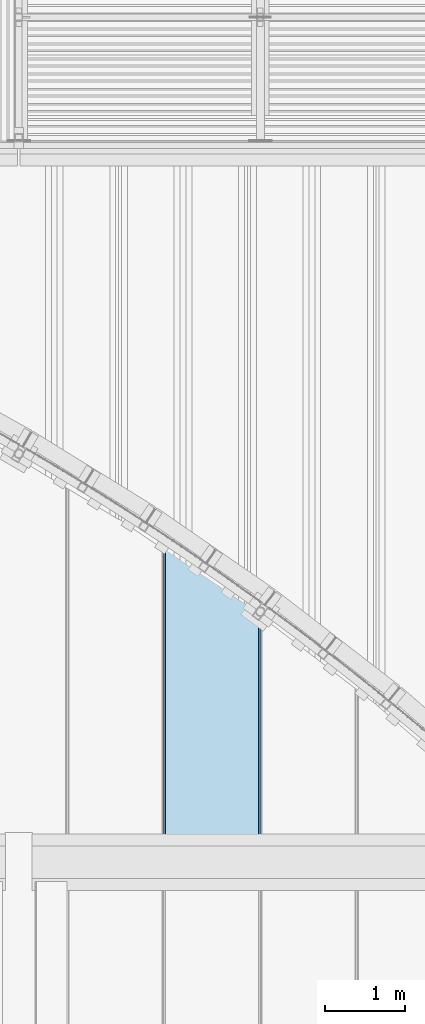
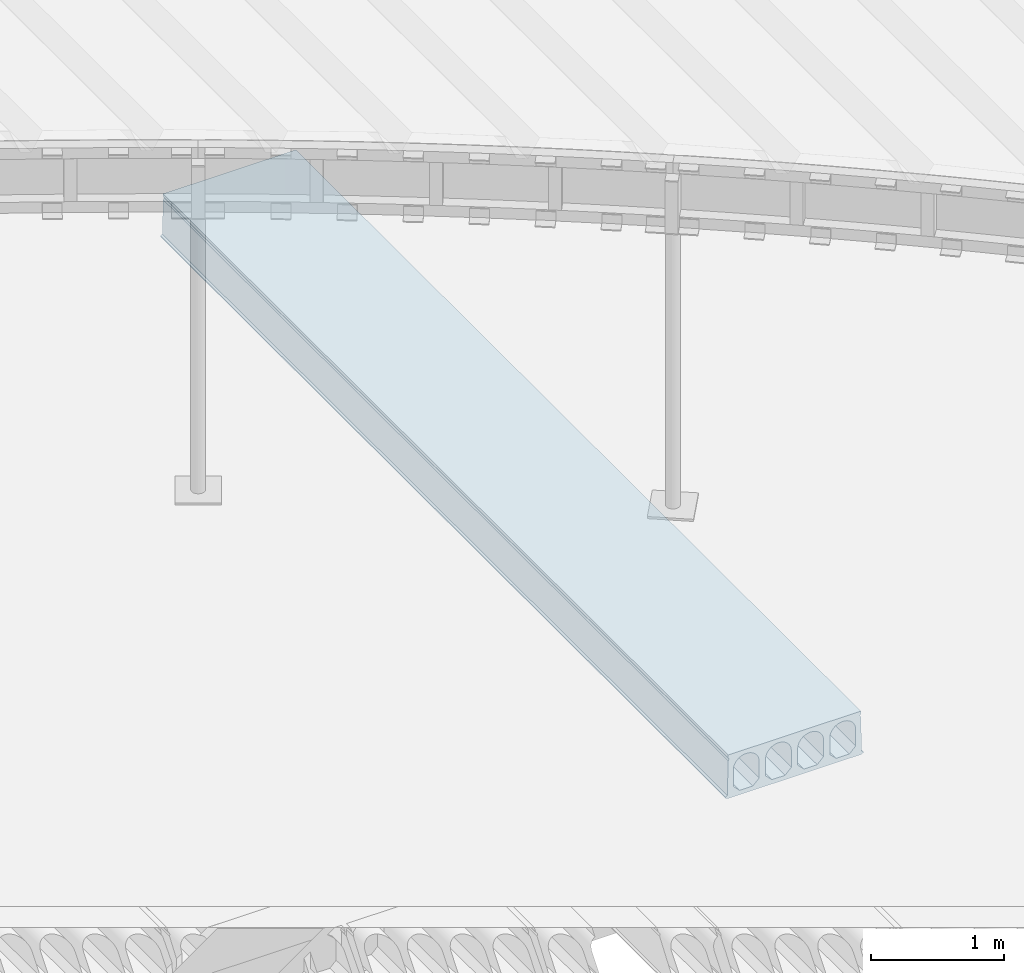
# One storey, part 62 of 98: 1 slab.
"""IFC2X3 building model written with IfcOpenShell, lengths in millimetres."""

from ifc_helpers import new_model, entity, si_unit, converted_unit, derived_unit, direction, frame, origin_with_axes, place, context, subcontext, project, spatial, faceted_brep, material, type_object, element, save


model = new_model("IFC2X3")

# Units and contexts
model_context = context("Model", 3, precision=0.01, world=frame((0.0, 4.29681676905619e-09, 0.0)), true_north=direction((4.01073788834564e-13, 1.0)))
plan_context = context("Plan", 3, precision=0.01, world=frame((0.0, 4.29681676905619e-09, 0.0)), true_north=direction((4.01073788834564e-13, 1.0)))
body_context = subcontext(model_context, "Body", "Model", "MODEL_VIEW")
ifc_project = project(units=[converted_unit("PLANEANGLEUNIT", "DEGREE", entity("IfcPositiveLengthMeasure", 0.0174532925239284), si_unit("PLANEANGLEUNIT", "RADIAN"), dimensions=[0, 0, 0, 0, 0, 0, 0]), si_unit("AREAUNIT", "SQUARE_METRE"), si_unit("LENGTHUNIT", "METRE", prefix="MILLI"), si_unit("MASSUNIT", "GRAM", prefix="KILO"), si_unit("POWERUNIT", "WATT"), si_unit("PRESSUREUNIT", "PASCAL"), si_unit("FORCEUNIT", "NEWTON", prefix="KILO"), si_unit("ELECTRICCURRENTUNIT", "AMPERE"), si_unit("THERMODYNAMICTEMPERATUREUNIT", "DEGREE_CELSIUS"), si_unit("TIMEUNIT", "SECOND"), si_unit("VOLUMEUNIT", "CUBIC_METRE"), derived_unit("LINEARVELOCITYUNIT", [(si_unit("LENGTHUNIT", "METRE"), 1), (si_unit("TIMEUNIT", "SECOND"), -1)]), derived_unit("VOLUMETRICFLOWRATEUNIT", [(si_unit("VOLUMEUNIT", "CUBIC_METRE"), 1), (si_unit("TIMEUNIT", "SECOND"), -1)]), derived_unit("THERMALTRANSMITTANCEUNIT", [(si_unit("POWERUNIT", "WATT"), 1), (si_unit("THERMODYNAMICTEMPERATUREUNIT", "KELVIN"), -1), (si_unit("AREAUNIT", "SQUARE_METRE"), -1)])], contexts=[model_context, plan_context])

# Site, building, storey
site_placement = place(None, frame((0.0, -4.29681676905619e-09, 0.0), z_axis=(0.0, 0.0, 1.0), x_axis=(1.0, 0.0, 0.0)))
site = spatial("IfcSite", under=ifc_project, at=site_placement, Name="Gardermoen", CompositionType="ELEMENT")
building_placement = place(site_placement, frame((0.0, 4.29681676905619e-09, 0.0), z_axis=(0.0, 0.0, 1.0), x_axis=(1.0, 0.0, 0.0)))
building = spatial("IfcBuilding", under=site, at=building_placement, Name="TS", CompositionType="ELEMENT")
storey_placement = place(building_placement, origin_with_axes())
storey = spatial("IfcBuildingStorey", under=building, at=storey_placement, Name="D", CompositionType="ELEMENT", Elevation=0.0)

# Slab
ifc_material = material(Name="CONCRETE/C45/55")
slab_type = type_object("IfcSlabType", Name="HD400", PredefinedType="NOTDEFINED")
slab_placement = place(storey_placement, frame((522399.999766, 405739.995625, 203600.0), z_axis=(0.0, 0.0, 1.0), x_axis=(0.0, 1.0, 0.0)))
element("IfcSlab", 1, at=slab_placement, inside=storey, type_object=slab_type, material=ifc_material, Name="HULLDEKKE", ObjectType="HD400", PredefinedType="FLOOR", context=body_context, shape_type="Brep", body=[
    faceted_brep([(0.0, 600.0, -190.0), (0.0, 600.0, -180.0), (8520.00875000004, 600.0, -180.0), (8520.00875000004, 600.0, -190.0), (0.0, 585.0, -170.0), (8520.00875000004, 585.0, -170.0), (0.0, 577.5, 145.0), (8520.00875000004, 577.5, 145.0), (0.0, 570.0, 160.0), (8520.00875000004, 570.0, 160.0), (0.0, 577.5, 175.0), (8520.00875000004, 577.5, 175.0), (0.0, 577.5, 200.0), (8520.00875000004, 577.5, 200.0), (0.0, -577.5, 200.0), (8520.00875000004, -577.5, 200.0), (0.0, -577.5, 175.0), (8520.00875000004, -577.5, 175.0), (0.0, -570.0, 160.0), (8520.00875000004, -570.0, 160.0), (0.0, -577.5, 145.0), (8520.00875000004, -577.5, 145.0), (0.0, -585.0, -170.0), (8520.00875000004, -585.0, -170.0), (0.0, -600.0, -180.0), (8520.00875000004, -600.0, -180.0), (0.0, -600.0, -190.0), (8520.00875000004, -600.0, -190.0), (0.0, -583.380004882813, -200.0), (8520.00875000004, -583.380004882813, -200.0), (0.0, 583.380004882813, -200.0), (8520.00875000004, 583.380004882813, -200.0), (0.0, -362.5, -160.0), (0.0, -477.5, -160.0), (8520.00875000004, -477.5, -160.0), (8520.00875000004, -362.5, -160.0), (0.0, -532.5, -105.0), (8520.00875000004, -532.5, -105.0), (0.0, -532.5, 47.5), (8520.00875000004, -532.5, 47.5), (0.0, -532.115755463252, 56.7901763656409), (8520.00875000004, -532.115755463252, 56.7901763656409), (0.0, -530.965646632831, 66.0168914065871), (8520.00875000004, -530.965646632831, 66.0168914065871), (0.0, -529.057529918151, 75.1171173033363), (8520.00875000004, -529.057529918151, 75.1171173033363), (0.0, -526.404439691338, 84.028690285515), (8520.00875000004, -526.404439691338, 84.028690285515), (0.0, -523.024499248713, 92.6907352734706), (8520.00875000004, -523.024499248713, 92.6907352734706), (0.0, -518.940797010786, 101.044081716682), (8520.00875000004, -518.940797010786, 101.044081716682), (0.0, -514.181228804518, 109.031667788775), (8520.00875000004, -514.181228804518, 109.031667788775), (0.0, -508.778307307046, 116.598930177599), (8520.00875000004, -508.778307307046, 116.598930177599), (0.0, -502.768939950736, 123.694176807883), (8520.00875000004, -502.768939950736, 123.694176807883), (0.0, -496.194176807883, 130.268939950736), (8520.00875000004, -496.194176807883, 130.268939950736), (0.0, -489.098930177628, 136.278307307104), (8520.00875000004, -489.098930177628, 136.278307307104), (0.0, -481.531667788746, 141.681228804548), (8520.00875000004, -481.531667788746, 141.681228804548), (0.0, -473.544081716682, 146.440797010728), (8520.00875000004, -473.544081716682, 146.440797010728), (0.0, -465.190735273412, 150.524499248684), (8520.00875000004, -465.190735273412, 150.524499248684), (0.0, -456.528690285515, 153.904439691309), (8520.00875000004, -456.528690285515, 153.904439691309), (0.0, -447.617117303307, 156.55752991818), (8520.00875000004, -447.617117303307, 156.55752991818), (0.0, -438.516891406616, 158.465646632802), (8520.00875000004, -438.516891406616, 158.465646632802), (0.0, -429.290176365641, 159.615755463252), (8520.00875000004, -429.290176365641, 159.615755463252), (0.0, -420.0, 160.0), (8520.00875000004, -420.0, 160.0), (0.0, -410.709823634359, 159.615755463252), (8520.00875000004, -410.709823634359, 159.615755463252), (0.0, -401.483108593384, 158.465646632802), (8520.00875000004, -401.483108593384, 158.465646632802), (0.0, -392.382882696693, 156.55752991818), (8520.00875000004, -392.382882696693, 156.55752991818), (0.0, -383.471309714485, 153.904439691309), (8520.00875000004, -383.471309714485, 153.904439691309), (0.0, -374.809264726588, 150.524499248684), (8520.00875000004, -374.809264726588, 150.524499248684), (0.0, -366.455918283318, 146.440797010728), (8520.00875000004, -366.455918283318, 146.440797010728), (0.0, -358.468332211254, 141.681228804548), (8520.00875000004, -358.468332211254, 141.681228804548), (0.0, -350.901069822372, 136.278307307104), (8520.00875000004, -350.901069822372, 136.278307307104), (0.0, -343.805823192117, 130.268939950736), (8520.00875000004, -343.805823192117, 130.268939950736), (0.0, -337.231060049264, 123.694176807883), (8520.00875000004, -337.231060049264, 123.694176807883), (0.0, -331.221692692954, 116.598930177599), (8520.00875000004, -331.221692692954, 116.598930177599), (0.0, -325.818771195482, 109.031667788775), (8520.00875000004, -325.818771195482, 109.031667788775), (0.0, -321.059202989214, 101.044081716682), (8520.00875000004, -321.059202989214, 101.044081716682), (0.0, -316.975500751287, 92.6907352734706), (8520.00875000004, -316.975500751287, 92.6907352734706), (0.0, -313.595560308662, 84.028690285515), (8520.00875000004, -313.595560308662, 84.028690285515), (0.0, -310.942470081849, 75.1171173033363), (8520.00875000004, -310.942470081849, 75.1171173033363), (0.0, -309.034353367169, 66.0168914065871), (8520.00875000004, -309.034353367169, 66.0168914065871), (0.0, -307.884244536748, 56.7901763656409), (8520.00875000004, -307.884244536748, 56.7901763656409), (0.0, -307.5, 47.5), (8520.00875000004, -307.5, 47.5), (0.0, -307.5, -105.0), (8520.00875000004, -307.5, -105.0), (0.0, -82.5, -160.0), (0.0, -197.5, -160.0), (8520.00875000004, -197.5, -160.0), (8520.00875000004, -82.5, -160.0), (0.0, -252.5, -105.0), (8520.00875000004, -252.5, -105.0), (0.0, -252.5, 47.5), (8520.00875000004, -252.5, 47.5), (0.0, -252.115755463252, 56.7901763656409), (8520.00875000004, -252.115755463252, 56.7901763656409), (0.0, -250.965646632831, 66.0168914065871), (8520.00875000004, -250.965646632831, 66.0168914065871), (0.0, -249.057529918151, 75.1171173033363), (8520.00875000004, -249.057529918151, 75.1171173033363), (0.0, -246.404439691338, 84.028690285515), (8520.00875000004, -246.404439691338, 84.028690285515), (0.0, -243.024499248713, 92.6907352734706), (8520.00875000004, -243.024499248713, 92.6907352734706), (0.0, -238.940797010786, 101.044081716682), (8520.00875000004, -238.940797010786, 101.044081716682), (0.0, -234.181228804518, 109.031667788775), (8520.00875000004, -234.181228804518, 109.031667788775), (0.0, -228.778307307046, 116.598930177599), (8520.00875000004, -228.778307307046, 116.598930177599), (0.0, -222.768939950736, 123.694176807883), (8520.00875000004, -222.768939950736, 123.694176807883), (0.0, -216.194176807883, 130.268939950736), (8520.00875000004, -216.194176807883, 130.268939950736), (0.0, -209.098930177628, 136.278307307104), (8520.00875000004, -209.098930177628, 136.278307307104), (0.0, -201.531667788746, 141.681228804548), (8520.00875000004, -201.531667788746, 141.681228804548), (0.0, -193.544081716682, 146.440797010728), (8520.00875000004, -193.544081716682, 146.440797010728), (0.0, -185.190735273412, 150.524499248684), (8520.00875000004, -185.190735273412, 150.524499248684), (0.0, -176.528690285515, 153.904439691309), (8520.00875000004, -176.528690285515, 153.904439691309), (0.0, -167.617117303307, 156.55752991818), (8520.00875000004, -167.617117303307, 156.55752991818), (0.0, -158.516891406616, 158.465646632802), (8520.00875000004, -158.516891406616, 158.465646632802), (0.0, -149.290176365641, 159.615755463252), (8520.00875000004, -149.290176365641, 159.615755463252), (0.0, -140.0, 160.0), (8520.00875000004, -140.0, 160.0), (0.0, -130.709823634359, 159.615755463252), (8520.00875000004, -130.709823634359, 159.615755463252), (0.0, -121.483108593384, 158.465646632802), (8520.00875000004, -121.483108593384, 158.465646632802), (0.0, -112.382882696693, 156.55752991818), (8520.00875000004, -112.382882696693, 156.55752991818), (0.0, -103.471309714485, 153.904439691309), (8520.00875000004, -103.471309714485, 153.904439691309), (0.0, -94.8092647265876, 150.524499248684), (8520.00875000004, -94.8092647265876, 150.524499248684), (0.0, -86.4559182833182, 146.440797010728), (8520.00875000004, -86.4559182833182, 146.440797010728), (0.0, -78.4683322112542, 141.681228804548), (8520.00875000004, -78.4683322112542, 141.681228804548), (0.0, -70.9010698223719, 136.278307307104), (8520.00875000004, -70.9010698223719, 136.278307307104), (0.0, -63.8058231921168, 130.268939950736), (8520.00875000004, -63.8058231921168, 130.268939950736), (0.0, -57.2310600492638, 123.694176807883), (8520.00875000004, -57.2310600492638, 123.694176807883), (0.0, -51.2216926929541, 116.598930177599), (8520.00875000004, -51.2216926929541, 116.598930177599), (0.0, -45.8187711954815, 109.031667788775), (8520.00875000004, -45.8187711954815, 109.031667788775), (0.0, -41.0592029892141, 101.044081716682), (8520.00875000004, -41.0592029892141, 101.044081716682), (0.0, -36.9755007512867, 92.6907352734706), (8520.00875000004, -36.9755007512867, 92.6907352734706), (0.0, -33.5955603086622, 84.028690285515), (8520.00875000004, -33.5955603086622, 84.028690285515), (0.0, -30.942470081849, 75.1171173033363), (8520.00875000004, -30.942470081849, 75.1171173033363), (0.0, -29.0343533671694, 66.0168914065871), (8520.00875000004, -29.0343533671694, 66.0168914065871), (0.0, -27.8842445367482, 56.7901763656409), (8520.00875000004, -27.8842445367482, 56.7901763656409), (0.0, -27.5, 47.5), (8520.00875000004, -27.5, 47.5), (0.0, -27.5, -105.0), (8520.00875000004, -27.5, -105.0), (0.0, 197.5, -160.0), (0.0, 82.5, -160.0), (8520.00875000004, 82.5, -160.0), (8520.00875000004, 197.5, -160.0), (0.0, 27.5, -105.0), (8520.00875000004, 27.5, -105.0), (0.0, 27.5, 47.5), (8520.00875000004, 27.5, 47.5), (0.0, 27.8842445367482, 56.7901763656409), (8520.00875000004, 27.8842445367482, 56.7901763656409), (0.0, 29.0343533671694, 66.0168914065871), (8520.00875000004, 29.0343533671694, 66.0168914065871), (0.0, 30.942470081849, 75.1171173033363), (8520.00875000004, 30.942470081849, 75.1171173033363), (0.0, 33.5955603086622, 84.028690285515), (8520.00875000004, 33.5955603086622, 84.028690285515), (0.0, 36.9755007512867, 92.6907352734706), (8520.00875000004, 36.9755007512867, 92.6907352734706), (0.0, 41.0592029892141, 101.044081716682), (8520.00875000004, 41.0592029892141, 101.044081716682), (0.0, 45.8187711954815, 109.031667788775), (8520.00875000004, 45.8187711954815, 109.031667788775), (0.0, 51.2216926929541, 116.598930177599), (8520.00875000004, 51.2216926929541, 116.598930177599), (0.0, 57.2310600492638, 123.694176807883), (8520.00875000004, 57.2310600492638, 123.694176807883), (0.0, 63.8058231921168, 130.268939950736), (8520.00875000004, 63.8058231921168, 130.268939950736), (0.0, 70.9010698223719, 136.278307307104), (8520.00875000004, 70.9010698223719, 136.278307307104), (0.0, 78.4683322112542, 141.681228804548), (8520.00875000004, 78.4683322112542, 141.681228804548), (0.0, 86.4559182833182, 146.440797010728), (8520.00875000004, 86.4559182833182, 146.440797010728), (0.0, 94.8092647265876, 150.524499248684), (8520.00875000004, 94.8092647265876, 150.524499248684), (0.0, 103.471309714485, 153.904439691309), (8520.00875000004, 103.471309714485, 153.904439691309), (0.0, 112.382882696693, 156.55752991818), (8520.00875000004, 112.382882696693, 156.55752991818), (0.0, 121.483108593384, 158.465646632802), (8520.00875000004, 121.483108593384, 158.465646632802), (0.0, 130.709823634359, 159.615755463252), (8520.00875000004, 130.709823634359, 159.615755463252), (0.0, 140.0, 160.0), (8520.00875000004, 140.0, 160.0), (0.0, 149.290176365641, 159.615755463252), (8520.00875000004, 149.290176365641, 159.615755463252), (0.0, 158.516891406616, 158.465646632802), (8520.00875000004, 158.516891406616, 158.465646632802), (0.0, 167.617117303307, 156.55752991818), (8520.00875000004, 167.617117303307, 156.55752991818), (0.0, 176.528690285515, 153.904439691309), (8520.00875000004, 176.528690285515, 153.904439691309), (0.0, 185.190735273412, 150.524499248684), (8520.00875000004, 185.190735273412, 150.524499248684), (0.0, 193.544081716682, 146.440797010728), (8520.00875000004, 193.544081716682, 146.440797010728), (0.0, 201.531667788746, 141.681228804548), (8520.00875000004, 201.531667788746, 141.681228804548), (0.0, 209.098930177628, 136.278307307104), (8520.00875000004, 209.098930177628, 136.278307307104), (0.0, 216.194176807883, 130.268939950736), (8520.00875000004, 216.194176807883, 130.268939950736), (0.0, 222.768939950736, 123.694176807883), (8520.00875000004, 222.768939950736, 123.694176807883), (0.0, 228.778307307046, 116.598930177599), (8520.00875000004, 228.778307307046, 116.598930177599), (0.0, 234.181228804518, 109.031667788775), (8520.00875000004, 234.181228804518, 109.031667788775), (0.0, 238.940797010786, 101.044081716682), (8520.00875000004, 238.940797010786, 101.044081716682), (0.0, 243.024499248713, 92.6907352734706), (8520.00875000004, 243.024499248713, 92.6907352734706), (0.0, 246.404439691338, 84.028690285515), (8520.00875000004, 246.404439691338, 84.028690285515), (0.0, 249.057529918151, 75.1171173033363), (8520.00875000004, 249.057529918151, 75.1171173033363), (0.0, 250.965646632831, 66.0168914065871), (8520.00875000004, 250.965646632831, 66.0168914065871), (0.0, 252.115755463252, 56.7901763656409), (8520.00875000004, 252.115755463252, 56.7901763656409), (0.0, 252.5, 47.5), (8520.00875000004, 252.5, 47.5), (0.0, 252.5, -105.0), (8520.00875000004, 252.5, -105.0), (0.0, 477.5, -160.0), (0.0, 362.5, -160.0), (8520.00875000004, 362.5, -160.0), (8520.00875000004, 477.5, -160.0), (0.0, 307.5, -105.0), (8520.00875000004, 307.5, -105.0), (0.0, 307.5, 47.5), (8520.00875000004, 307.5, 47.5), (0.0, 307.884244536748, 56.7901763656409), (8520.00875000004, 307.884244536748, 56.7901763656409), (0.0, 309.034353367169, 66.0168914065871), (8520.00875000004, 309.034353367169, 66.0168914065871), (0.0, 310.942470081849, 75.1171173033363), (8520.00875000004, 310.942470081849, 75.1171173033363), (0.0, 313.595560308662, 84.028690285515), (8520.00875000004, 313.595560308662, 84.028690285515), (0.0, 316.975500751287, 92.6907352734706), (8520.00875000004, 316.975500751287, 92.6907352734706), (0.0, 321.059202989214, 101.044081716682), (8520.00875000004, 321.059202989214, 101.044081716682), (0.0, 325.818771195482, 109.031667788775), (8520.00875000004, 325.818771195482, 109.031667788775), (0.0, 331.221692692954, 116.598930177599), (8520.00875000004, 331.221692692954, 116.598930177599), (0.0, 337.231060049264, 123.694176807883), (8520.00875000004, 337.231060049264, 123.694176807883), (0.0, 343.805823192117, 130.268939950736), (8520.00875000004, 343.805823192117, 130.268939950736), (0.0, 350.901069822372, 136.278307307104), (8520.00875000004, 350.901069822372, 136.278307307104), (0.0, 358.468332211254, 141.681228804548), (8520.00875000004, 358.468332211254, 141.681228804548), (0.0, 366.455918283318, 146.440797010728), (8520.00875000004, 366.455918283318, 146.440797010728), (0.0, 374.809264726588, 150.524499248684), (8520.00875000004, 374.809264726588, 150.524499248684), (0.0, 383.471309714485, 153.904439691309), (8520.00875000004, 383.471309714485, 153.904439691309), (0.0, 392.382882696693, 156.55752991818), (8520.00875000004, 392.382882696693, 156.55752991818), (0.0, 401.483108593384, 158.465646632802), (8520.00875000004, 401.483108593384, 158.465646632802), (0.0, 410.709823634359, 159.615755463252), (8520.00875000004, 410.709823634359, 159.615755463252), (0.0, 420.0, 160.0), (8520.00875000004, 420.0, 160.0), (0.0, 429.290176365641, 159.615755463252), (8520.00875000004, 429.290176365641, 159.615755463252), (0.0, 438.516891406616, 158.465646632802), (8520.00875000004, 438.516891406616, 158.465646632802), (0.0, 447.617117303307, 156.55752991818), (8520.00875000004, 447.617117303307, 156.55752991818), (0.0, 456.528690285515, 153.904439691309), (8520.00875000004, 456.528690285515, 153.904439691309), (0.0, 465.190735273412, 150.524499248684), (8520.00875000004, 465.190735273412, 150.524499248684), (0.0, 473.544081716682, 146.440797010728), (8520.00875000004, 473.544081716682, 146.440797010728), (0.0, 481.531667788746, 141.681228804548), (8520.00875000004, 481.531667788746, 141.681228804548), (0.0, 489.098930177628, 136.278307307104), (8520.00875000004, 489.098930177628, 136.278307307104), (0.0, 496.194176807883, 130.268939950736), (8520.00875000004, 496.194176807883, 130.268939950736), (0.0, 502.768939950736, 123.694176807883), (8520.00875000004, 502.768939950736, 123.694176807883), (0.0, 508.778307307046, 116.598930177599), (8520.00875000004, 508.778307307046, 116.598930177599), (0.0, 514.181228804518, 109.031667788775), (8520.00875000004, 514.181228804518, 109.031667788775), (0.0, 518.940797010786, 101.044081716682), (8520.00875000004, 518.940797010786, 101.044081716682), (0.0, 523.024499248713, 92.6907352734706), (8520.00875000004, 523.024499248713, 92.6907352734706), (0.0, 526.404439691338, 84.028690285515), (8520.00875000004, 526.404439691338, 84.028690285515), (0.0, 529.057529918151, 75.1171173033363), (8520.00875000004, 529.057529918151, 75.1171173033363), (0.0, 530.965646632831, 66.0168914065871), (8520.00875000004, 530.965646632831, 66.0168914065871), (0.0, 532.115755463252, 56.7901763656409), (8520.00875000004, 532.115755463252, 56.7901763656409), (0.0, 532.5, 47.5), (8520.00875000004, 532.5, 47.5), (0.0, 532.5, -105.0), (8520.00875000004, 532.5, -105.0)], [[[0, 1, 2, 3]], [[1, 4, 5, 2]], [[4, 6, 7, 5]], [[6, 8, 9, 7]], [[8, 10, 11, 9]], [[10, 12, 13, 11]], [[12, 14, 15, 13]], [[14, 16, 17, 15]], [[16, 18, 19, 17]], [[18, 20, 21, 19]], [[20, 22, 23, 21]], [[22, 24, 25, 23]], [[24, 26, 27, 25]], [[26, 28, 29, 27]], [[28, 30, 31, 29]], [[30, 0, 3, 31]], [[32, 33, 34, 35]], [[33, 36, 37, 34]], [[36, 38, 39, 37]], [[38, 40, 41, 39]], [[40, 42, 43, 41]], [[42, 44, 45, 43]], [[44, 46, 47, 45]], [[46, 48, 49, 47]], [[48, 50, 51, 49]], [[50, 52, 53, 51]], [[52, 54, 55, 53]], [[54, 56, 57, 55]], [[56, 58, 59, 57]], [[58, 60, 61, 59]], [[60, 62, 63, 61]], [[62, 64, 65, 63]], [[64, 66, 67, 65]], [[66, 68, 69, 67]], [[68, 70, 71, 69]], [[70, 72, 73, 71]], [[72, 74, 75, 73]], [[74, 76, 77, 75]], [[76, 78, 79, 77]], [[78, 80, 81, 79]], [[80, 82, 83, 81]], [[82, 84, 85, 83]], [[84, 86, 87, 85]], [[86, 88, 89, 87]], [[88, 90, 91, 89]], [[90, 92, 93, 91]], [[92, 94, 95, 93]], [[94, 96, 97, 95]], [[96, 98, 99, 97]], [[98, 100, 101, 99]], [[100, 102, 103, 101]], [[102, 104, 105, 103]], [[104, 106, 107, 105]], [[106, 108, 109, 107]], [[108, 110, 111, 109]], [[110, 112, 113, 111]], [[112, 114, 115, 113]], [[114, 116, 117, 115]], [[116, 32, 35, 117]], [[118, 119, 120, 121]], [[119, 122, 123, 120]], [[122, 124, 125, 123]], [[124, 126, 127, 125]], [[126, 128, 129, 127]], [[128, 130, 131, 129]], [[130, 132, 133, 131]], [[132, 134, 135, 133]], [[134, 136, 137, 135]], [[136, 138, 139, 137]], [[138, 140, 141, 139]], [[140, 142, 143, 141]], [[142, 144, 145, 143]], [[144, 146, 147, 145]], [[146, 148, 149, 147]], [[148, 150, 151, 149]], [[150, 152, 153, 151]], [[152, 154, 155, 153]], [[154, 156, 157, 155]], [[156, 158, 159, 157]], [[158, 160, 161, 159]], [[160, 162, 163, 161]], [[162, 164, 165, 163]], [[164, 166, 167, 165]], [[166, 168, 169, 167]], [[168, 170, 171, 169]], [[170, 172, 173, 171]], [[172, 174, 175, 173]], [[174, 176, 177, 175]], [[176, 178, 179, 177]], [[178, 180, 181, 179]], [[180, 182, 183, 181]], [[182, 184, 185, 183]], [[184, 186, 187, 185]], [[186, 188, 189, 187]], [[188, 190, 191, 189]], [[190, 192, 193, 191]], [[192, 194, 195, 193]], [[194, 196, 197, 195]], [[196, 198, 199, 197]], [[198, 200, 201, 199]], [[200, 202, 203, 201]], [[202, 118, 121, 203]], [[204, 205, 206, 207]], [[205, 208, 209, 206]], [[208, 210, 211, 209]], [[210, 212, 213, 211]], [[212, 214, 215, 213]], [[214, 216, 217, 215]], [[216, 218, 219, 217]], [[218, 220, 221, 219]], [[220, 222, 223, 221]], [[222, 224, 225, 223]], [[224, 226, 227, 225]], [[226, 228, 229, 227]], [[228, 230, 231, 229]], [[230, 232, 233, 231]], [[232, 234, 235, 233]], [[234, 236, 237, 235]], [[236, 238, 239, 237]], [[238, 240, 241, 239]], [[240, 242, 243, 241]], [[242, 244, 245, 243]], [[244, 246, 247, 245]], [[246, 248, 249, 247]], [[248, 250, 251, 249]], [[250, 252, 253, 251]], [[252, 254, 255, 253]], [[254, 256, 257, 255]], [[256, 258, 259, 257]], [[258, 260, 261, 259]], [[260, 262, 263, 261]], [[262, 264, 265, 263]], [[264, 266, 267, 265]], [[266, 268, 269, 267]], [[268, 270, 271, 269]], [[270, 272, 273, 271]], [[272, 274, 275, 273]], [[274, 276, 277, 275]], [[276, 278, 279, 277]], [[278, 280, 281, 279]], [[280, 282, 283, 281]], [[282, 284, 285, 283]], [[284, 286, 287, 285]], [[286, 288, 289, 287]], [[288, 204, 207, 289]], [[290, 291, 292, 293]], [[291, 294, 295, 292]], [[294, 296, 297, 295]], [[296, 298, 299, 297]], [[298, 300, 301, 299]], [[300, 302, 303, 301]], [[302, 304, 305, 303]], [[304, 306, 307, 305]], [[306, 308, 309, 307]], [[308, 310, 311, 309]], [[310, 312, 313, 311]], [[312, 314, 315, 313]], [[314, 316, 317, 315]], [[316, 318, 319, 317]], [[318, 320, 321, 319]], [[320, 322, 323, 321]], [[322, 324, 325, 323]], [[324, 326, 327, 325]], [[326, 328, 329, 327]], [[328, 330, 331, 329]], [[330, 332, 333, 331]], [[332, 334, 335, 333]], [[334, 336, 337, 335]], [[336, 338, 339, 337]], [[338, 340, 341, 339]], [[340, 342, 343, 341]], [[342, 344, 345, 343]], [[344, 346, 347, 345]], [[346, 348, 349, 347]], [[348, 350, 351, 349]], [[350, 352, 353, 351]], [[352, 354, 355, 353]], [[354, 356, 357, 355]], [[356, 358, 359, 357]], [[358, 360, 361, 359]], [[360, 362, 363, 361]], [[362, 364, 365, 363]], [[364, 366, 367, 365]], [[366, 368, 369, 367]], [[368, 370, 371, 369]], [[370, 372, 373, 371]], [[372, 374, 375, 373]], [[374, 290, 293, 375]], [[5, 7, 9, 11, 13, 15, 17, 19, 21, 23, 25, 27, 29, 31, 3, 2], [295, 297, 299, 301, 303, 305, 307, 309, 311, 313, 315, 317, 319, 321, 323, 325, 327, 329, 331, 333, 335, 337, 339, 341, 343, 345, 347, 349, 351, 353, 355, 357, 359, 361, 363, 365, 367, 369, 371, 373, 375, 293, 292], [209, 211, 213, 215, 217, 219, 221, 223, 225, 227, 229, 231, 233, 235, 237, 239, 241, 243, 245, 247, 249, 251, 253, 255, 257, 259, 261, 263, 265, 267, 269, 271, 273, 275, 277, 279, 281, 283, 285, 287, 289, 207, 206], [123, 125, 127, 129, 131, 133, 135, 137, 139, 141, 143, 145, 147, 149, 151, 153, 155, 157, 159, 161, 163, 165, 167, 169, 171, 173, 175, 177, 179, 181, 183, 185, 187, 189, 191, 193, 195, 197, 199, 201, 203, 121, 120], [37, 39, 41, 43, 45, 47, 49, 51, 53, 55, 57, 59, 61, 63, 65, 67, 69, 71, 73, 75, 77, 79, 81, 83, 85, 87, 89, 91, 93, 95, 97, 99, 101, 103, 105, 107, 109, 111, 113, 115, 117, 35, 34]], [[30, 28, 26, 24, 22, 20, 18, 16, 14, 12, 10, 8, 6, 4, 1, 0], [374, 372, 370, 368, 366, 364, 362, 360, 358, 356, 354, 352, 350, 348, 346, 344, 342, 340, 338, 336, 334, 332, 330, 328, 326, 324, 322, 320, 318, 316, 314, 312, 310, 308, 306, 304, 302, 300, 298, 296, 294, 291, 290], [288, 286, 284, 282, 280, 278, 276, 274, 272, 270, 268, 266, 264, 262, 260, 258, 256, 254, 252, 250, 248, 246, 244, 242, 240, 238, 236, 234, 232, 230, 228, 226, 224, 222, 220, 218, 216, 214, 212, 210, 208, 205, 204], [202, 200, 198, 196, 194, 192, 190, 188, 186, 184, 182, 180, 178, 176, 174, 172, 170, 168, 166, 164, 162, 160, 158, 156, 154, 152, 150, 148, 146, 144, 142, 140, 138, 136, 134, 132, 130, 128, 126, 124, 122, 119, 118], [116, 114, 112, 110, 108, 106, 104, 102, 100, 98, 96, 94, 92, 90, 88, 86, 84, 82, 80, 78, 76, 74, 72, 70, 68, 66, 64, 62, 60, 58, 56, 54, 52, 50, 48, 46, 44, 42, 40, 38, 36, 33, 32]]]),
])

save(model, "model.ifc")
